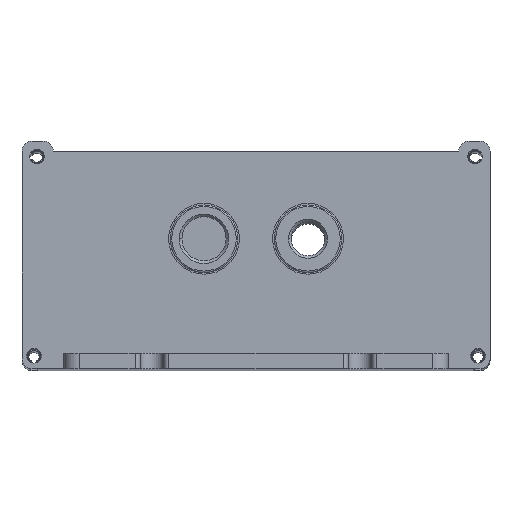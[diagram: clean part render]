
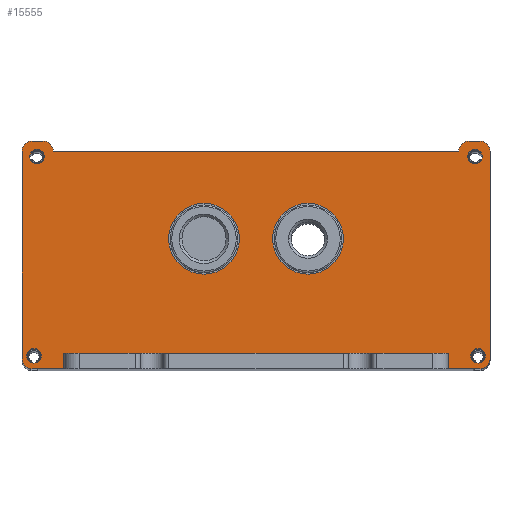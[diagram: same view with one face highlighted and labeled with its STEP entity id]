
A CAD part, top view. The second image highlights one B-rep face of the part: STEP entity #15555.
In plain terms, the highlighted planar face has unit normal (0, 0, 1).
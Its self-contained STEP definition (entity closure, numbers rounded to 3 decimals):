
#14589=CARTESIAN_POINT('',(2.9,40.8,2.));
#14590=DIRECTION('',(0.,0.,1.));
#14591=DIRECTION('',(1.,0.,0.));
#14592=AXIS2_PLACEMENT_3D('',#14589,#14590,#14591);
#14594=CARTESIAN_POINT('',(2.9,40.8,2.));
#14595=DIRECTION('',(0.,0.,1.));
#14596=DIRECTION('',(-1.,0.,0.));
#14597=AXIS2_PLACEMENT_3D('',#14594,#14595,#14596);
#14599=CARTESIAN_POINT('',(2.3,2.5,2.));
#14600=DIRECTION('',(0.,0.,1.));
#14601=DIRECTION('',(1.,0.,0.));
#14602=AXIS2_PLACEMENT_3D('',#14599,#14600,#14601);
#14604=CARTESIAN_POINT('',(2.3,2.5,2.));
#14605=DIRECTION('',(0.,0.,1.));
#14606=DIRECTION('',(-1.,0.,0.));
#14607=AXIS2_PLACEMENT_3D('',#14604,#14605,#14606);
#14609=CARTESIAN_POINT('',(87.1,40.8,2.));
#14610=DIRECTION('',(0.,0.,-1.));
#14611=DIRECTION('',(-1.,0.,0.));
#14612=AXIS2_PLACEMENT_3D('',#14609,#14610,#14611);
#14614=CARTESIAN_POINT('',(87.1,40.8,2.));
#14615=DIRECTION('',(0.,0.,-1.));
#14616=DIRECTION('',(1.,0.,0.));
#14617=AXIS2_PLACEMENT_3D('',#14614,#14615,#14616);
#14619=CARTESIAN_POINT('',(87.7,2.5,2.));
#14620=DIRECTION('',(0.,0.,-1.));
#14621=DIRECTION('',(-1.,0.,0.));
#14622=AXIS2_PLACEMENT_3D('',#14619,#14620,#14621);
#14624=CARTESIAN_POINT('',(87.7,2.5,2.));
#14625=DIRECTION('',(0.,0.,-1.));
#14626=DIRECTION('',(1.,0.,0.));
#14627=AXIS2_PLACEMENT_3D('',#14624,#14625,#14626);
#14629=DIRECTION('',(0.,1.,0.));
#14630=VECTOR('',#14629,3.);
#14631=CARTESIAN_POINT('',(8.,0.,2.));
#14632=LINE('',#14631,#14630);
#14633=DIRECTION('',(1.,0.,0.));
#14634=VECTOR('',#14633,6.);
#14635=CARTESIAN_POINT('',(2.,0.,2.));
#14636=LINE('',#14635,#14634);
#14637=CARTESIAN_POINT('',(2.,2.,2.));
#14638=DIRECTION('',(0.,0.,1.));
#14639=DIRECTION('',(-1.,0.,0.));
#14640=AXIS2_PLACEMENT_3D('',#14637,#14638,#14639);
#14642=DIRECTION('',(0.,-1.,0.));
#14643=VECTOR('',#14642,39.8);
#14644=CARTESIAN_POINT('',(0.,41.8,2.));
#14645=LINE('',#14644,#14643);
#14646=CARTESIAN_POINT('',(2.,41.8,2.));
#14647=DIRECTION('',(0.,0.,1.));
#14648=DIRECTION('',(0.,1.,0.));
#14649=AXIS2_PLACEMENT_3D('',#14646,#14647,#14648);
#14651=DIRECTION('',(-1.,0.,0.));
#14652=VECTOR('',#14651,2.);
#14653=CARTESIAN_POINT('',(4.,43.8,2.));
#14654=LINE('',#14653,#14652);
#14655=CARTESIAN_POINT('',(4.,41.8,2.));
#14656=DIRECTION('',(0.,0.,1.));
#14657=DIRECTION('',(1.,0.,0.));
#14658=AXIS2_PLACEMENT_3D('',#14655,#14656,#14657);
#14660=DIRECTION('',(-1.,0.,0.));
#14661=VECTOR('',#14660,78.);
#14662=CARTESIAN_POINT('',(84.,41.8,2.));
#14663=LINE('',#14662,#14661);
#14664=CARTESIAN_POINT('',(86.,41.8,2.));
#14665=DIRECTION('',(0.,0.,1.));
#14666=DIRECTION('',(0.,1.,0.));
#14667=AXIS2_PLACEMENT_3D('',#14664,#14665,#14666);
#14669=DIRECTION('',(-1.,0.,0.));
#14670=VECTOR('',#14669,2.);
#14671=CARTESIAN_POINT('',(88.,43.8,2.));
#14672=LINE('',#14671,#14670);
#14673=CARTESIAN_POINT('',(88.,41.8,2.));
#14674=DIRECTION('',(0.,0.,1.));
#14675=DIRECTION('',(1.,0.,0.));
#14676=AXIS2_PLACEMENT_3D('',#14673,#14674,#14675);
#14678=DIRECTION('',(0.,1.,0.));
#14679=VECTOR('',#14678,39.8);
#14680=CARTESIAN_POINT('',(90.,2.,2.));
#14681=LINE('',#14680,#14679);
#14682=CARTESIAN_POINT('',(88.,2.,2.));
#14683=DIRECTION('',(0.,0.,1.));
#14684=DIRECTION('',(0.,-1.,0.));
#14685=AXIS2_PLACEMENT_3D('',#14682,#14683,#14684);
#14687=DIRECTION('',(1.,0.,0.));
#14688=VECTOR('',#14687,6.);
#14689=CARTESIAN_POINT('',(82.,0.,2.));
#14690=LINE('',#14689,#14688);
#14691=DIRECTION('',(0.,1.,0.));
#14692=VECTOR('',#14691,3.);
#14693=CARTESIAN_POINT('',(82.,0.,2.));
#14694=LINE('',#14693,#14692);
#14695=DIRECTION('',(-1.,0.,0.));
#14696=VECTOR('',#14695,74.);
#14697=CARTESIAN_POINT('',(82.,3.,2.));
#14698=LINE('',#14697,#14696);
#14699=CARTESIAN_POINT('',(35.,25.,2.));
#14700=DIRECTION('',(0.,0.,1.));
#14701=DIRECTION('',(1.,0.,0.));
#14702=AXIS2_PLACEMENT_3D('',#14699,#14700,#14701);
#14704=CARTESIAN_POINT('',(35.,25.,2.));
#14705=DIRECTION('',(0.,0.,1.));
#14706=DIRECTION('',(-1.,0.,0.));
#14707=AXIS2_PLACEMENT_3D('',#14704,#14705,#14706);
#14709=CARTESIAN_POINT('',(55.,25.,2.));
#14710=DIRECTION('',(0.,0.,1.));
#14711=DIRECTION('',(1.,0.,0.));
#14712=AXIS2_PLACEMENT_3D('',#14709,#14710,#14711);
#14714=CARTESIAN_POINT('',(55.,25.,2.));
#14715=DIRECTION('',(0.,0.,1.));
#14716=DIRECTION('',(-1.,0.,0.));
#14717=AXIS2_PLACEMENT_3D('',#14714,#14715,#14716);
#14807=CARTESIAN_POINT('',(90.,41.8,2.));
#14808=CARTESIAN_POINT('',(88.,43.8,2.));
#14809=VERTEX_POINT('',#14807);
#14810=VERTEX_POINT('',#14808);
#14811=CARTESIAN_POINT('',(86.,43.8,2.));
#14812=VERTEX_POINT('',#14811);
#14813=CARTESIAN_POINT('',(84.,41.8,2.));
#14814=VERTEX_POINT('',#14813);
#14815=CARTESIAN_POINT('',(6.,41.8,2.));
#14816=VERTEX_POINT('',#14815);
#14817=CARTESIAN_POINT('',(4.,43.8,2.));
#14818=VERTEX_POINT('',#14817);
#14819=CARTESIAN_POINT('',(2.,43.8,2.));
#14820=VERTEX_POINT('',#14819);
#14821=CARTESIAN_POINT('',(0.,41.8,2.));
#14822=VERTEX_POINT('',#14821);
#14827=CARTESIAN_POINT('',(0.,2.,2.));
#14828=VERTEX_POINT('',#14827);
#14829=CARTESIAN_POINT('',(2.,0.,2.));
#14830=VERTEX_POINT('',#14829);
#14835=CARTESIAN_POINT('',(88.,0.,2.));
#14836=VERTEX_POINT('',#14835);
#14837=CARTESIAN_POINT('',(90.,2.,2.));
#14838=VERTEX_POINT('',#14837);
#14843=CARTESIAN_POINT('',(4.3,40.8,2.));
#14844=CARTESIAN_POINT('',(1.5,40.8,2.));
#14845=VERTEX_POINT('',#14843);
#14846=VERTEX_POINT('',#14844);
#14851=CARTESIAN_POINT('',(3.7,2.5,2.));
#14852=CARTESIAN_POINT('',(0.9,2.5,2.));
#14853=VERTEX_POINT('',#14851);
#14854=VERTEX_POINT('',#14852);
#14855=CARTESIAN_POINT('',(85.7,40.8,2.));
#14857=VERTEX_POINT('',#14855);
#14859=CARTESIAN_POINT('',(88.5,40.8,2.));
#14861=VERTEX_POINT('',#14859);
#14863=CARTESIAN_POINT('',(89.1,2.5,2.));
#14865=VERTEX_POINT('',#14863);
#14869=CARTESIAN_POINT('',(86.3,2.5,2.));
#14870=VERTEX_POINT('',#14869);
#14871=CARTESIAN_POINT('',(8.,0.,2.));
#14872=CARTESIAN_POINT('',(8.,3.,2.));
#14873=VERTEX_POINT('',#14871);
#14874=VERTEX_POINT('',#14872);
#14875=CARTESIAN_POINT('',(82.,0.,2.));
#14876=CARTESIAN_POINT('',(82.,3.,2.));
#14877=VERTEX_POINT('',#14875);
#14878=VERTEX_POINT('',#14876);
#14963=CARTESIAN_POINT('',(41.8,25.,2.));
#14964=CARTESIAN_POINT('',(28.2,25.,2.));
#14965=VERTEX_POINT('',#14963);
#14966=VERTEX_POINT('',#14964);
#14971=CARTESIAN_POINT('',(61.8,25.,2.));
#14972=CARTESIAN_POINT('',(48.2,25.,2.));
#14973=VERTEX_POINT('',#14971);
#14974=VERTEX_POINT('',#14972);
#15495=CARTESIAN_POINT('',(0.,0.,2.));
#15496=DIRECTION('',(0.,0.,1.));
#15497=DIRECTION('',(1.,0.,0.));
#15498=AXIS2_PLACEMENT_3D('',#15495,#15496,#15497);
#15499=PLANE('',#15498);
#15500=ORIENTED_EDGE('',*,*,#15489,.F.);
#15501=ORIENTED_EDGE('',*,*,#15236,.F.);
#15502=ORIENTED_EDGE('',*,*,#15051,.F.);
#15503=ORIENTED_EDGE('',*,*,#15067,.F.);
#15504=ORIENTED_EDGE('',*,*,#15080,.F.);
#15505=ORIENTED_EDGE('',*,*,#15094,.F.);
#15506=ORIENTED_EDGE('',*,*,#15108,.F.);
#15507=ORIENTED_EDGE('',*,*,#15122,.F.);
#15508=ORIENTED_EDGE('',*,*,#15136,.F.);
#15509=ORIENTED_EDGE('',*,*,#15150,.F.);
#15510=ORIENTED_EDGE('',*,*,#15164,.F.);
#15511=ORIENTED_EDGE('',*,*,#15177,.F.);
#15512=ORIENTED_EDGE('',*,*,#15192,.F.);
#15513=ORIENTED_EDGE('',*,*,#15231,.F.);
#15515=ORIENTED_EDGE('',*,*,#15514,.T.);
#15516=ORIENTED_EDGE('',*,*,#15326,.T.);
#15517=EDGE_LOOP('',(#15500,#15501,#15502,#15503,#15504,#15505,#15506,#15507,
#15508,#15509,#15510,#15511,#15512,#15513,#15515,#15516));
#15518=FACE_OUTER_BOUND('',#15517,.F.);
#15520=ORIENTED_EDGE('',*,*,#15519,.T.);
#15522=ORIENTED_EDGE('',*,*,#15521,.T.);
#15523=EDGE_LOOP('',(#15520,#15522));
#15524=FACE_BOUND('',#15523,.F.);
#15526=ORIENTED_EDGE('',*,*,#15525,.F.);
#15528=ORIENTED_EDGE('',*,*,#15527,.F.);
#15529=EDGE_LOOP('',(#15526,#15528));
#15530=FACE_BOUND('',#15529,.F.);
#15532=ORIENTED_EDGE('',*,*,#15531,.F.);
#15534=ORIENTED_EDGE('',*,*,#15533,.F.);
#15535=EDGE_LOOP('',(#15532,#15534));
#15536=FACE_BOUND('',#15535,.F.);
#15538=ORIENTED_EDGE('',*,*,#15537,.T.);
#15540=ORIENTED_EDGE('',*,*,#15539,.T.);
#15541=EDGE_LOOP('',(#15538,#15540));
#15542=FACE_BOUND('',#15541,.F.);
#15544=ORIENTED_EDGE('',*,*,#15543,.T.);
#15546=ORIENTED_EDGE('',*,*,#15545,.T.);
#15547=EDGE_LOOP('',(#15544,#15546));
#15548=FACE_BOUND('',#15547,.F.);
#15550=ORIENTED_EDGE('',*,*,#15549,.T.);
#15552=ORIENTED_EDGE('',*,*,#15551,.T.);
#15553=EDGE_LOOP('',(#15550,#15552));
#15554=FACE_BOUND('',#15553,.F.);
#14593=CIRCLE('',#14592,1.4);
#14598=CIRCLE('',#14597,1.4);
#14603=CIRCLE('',#14602,1.4);
#14608=CIRCLE('',#14607,1.4);
#14613=CIRCLE('',#14612,1.4);
#14618=CIRCLE('',#14617,1.4);
#14623=CIRCLE('',#14622,1.4);
#14628=CIRCLE('',#14627,1.4);
#14641=CIRCLE('',#14640,2.);
#14650=CIRCLE('',#14649,2.);
#14659=CIRCLE('',#14658,2.);
#14668=CIRCLE('',#14667,2.);
#14677=CIRCLE('',#14676,2.);
#14686=CIRCLE('',#14685,2.);
#14703=CIRCLE('',#14702,6.8);
#14708=CIRCLE('',#14707,6.8);
#14713=CIRCLE('',#14712,6.8);
#14718=CIRCLE('',#14717,6.8);
#15051=EDGE_CURVE('',#14828,#14830,#14641,.T.);
#15067=EDGE_CURVE('',#14822,#14828,#14645,.T.);
#15080=EDGE_CURVE('',#14820,#14822,#14650,.T.);
#15094=EDGE_CURVE('',#14818,#14820,#14654,.T.);
#15108=EDGE_CURVE('',#14816,#14818,#14659,.T.);
#15122=EDGE_CURVE('',#14814,#14816,#14663,.T.);
#15136=EDGE_CURVE('',#14812,#14814,#14668,.T.);
#15150=EDGE_CURVE('',#14810,#14812,#14672,.T.);
#15164=EDGE_CURVE('',#14809,#14810,#14677,.T.);
#15177=EDGE_CURVE('',#14838,#14809,#14681,.T.);
#15192=EDGE_CURVE('',#14836,#14838,#14686,.T.);
#15231=EDGE_CURVE('',#14877,#14836,#14690,.T.);
#15236=EDGE_CURVE('',#14830,#14873,#14636,.T.);
#15326=EDGE_CURVE('',#14878,#14874,#14698,.T.);
#15489=EDGE_CURVE('',#14873,#14874,#14632,.T.);
#15514=EDGE_CURVE('',#14877,#14878,#14694,.T.);
#15519=EDGE_CURVE('',#14853,#14854,#14603,.T.);
#15521=EDGE_CURVE('',#14854,#14853,#14608,.T.);
#15525=EDGE_CURVE('',#14857,#14861,#14613,.T.);
#15527=EDGE_CURVE('',#14861,#14857,#14618,.T.);
#15531=EDGE_CURVE('',#14870,#14865,#14623,.T.);
#15533=EDGE_CURVE('',#14865,#14870,#14628,.T.);
#15537=EDGE_CURVE('',#14845,#14846,#14593,.T.);
#15539=EDGE_CURVE('',#14846,#14845,#14598,.T.);
#15543=EDGE_CURVE('',#14965,#14966,#14703,.T.);
#15545=EDGE_CURVE('',#14966,#14965,#14708,.T.);
#15549=EDGE_CURVE('',#14973,#14974,#14713,.T.);
#15551=EDGE_CURVE('',#14974,#14973,#14718,.T.);
#15555=ADVANCED_FACE('',(#15518,#15524,#15530,#15536,#15542,#15548,#15554),
#15499,.T.);
